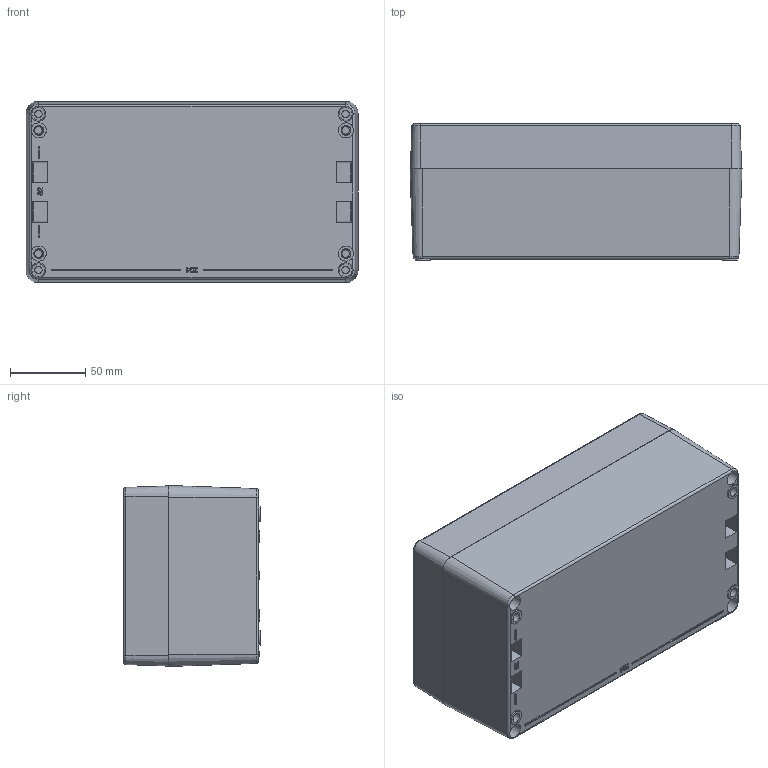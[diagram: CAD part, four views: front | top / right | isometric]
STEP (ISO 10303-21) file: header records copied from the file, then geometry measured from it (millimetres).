
FILE_DESCRIPTION(/* description */ (''),/* implementation_level */ '2;1');
FILE_NAME(/* name */ 'E:\Eng\Customer Service\Drawings\1590Z\STEP\1590Z155\1590Z155.iam.stp',/* time_stamp */ '2015-04-20T08:46:33-04:00',/* author */ ('rboehler'),/* organization */ (''),/* preprocessor_version */ 'ST-DEVELOPER v15.6',/* originating_system */ 'Autodesk Inventor 2015',/* authorisation */ '');
FILE_SCHEMA (('AUTOMOTIVE_DESIGN { 1 0 10303 214 3 1 1 }'));
Length unit declared in the file: millimetre
Products named in the file (6): 1590Z150 BOX; Z155 DEEP LID; 1590Z150 GASKET; 1590Z150PL; SC565 (screw M6-1X 45mm PN); 1590Z155
Assembly tree (8 placements, depth 2):
  1590Z155
    1590Z150 BOX
    Z155 DEEP LID
    1590Z150 GASKET
    1590Z150PL
    SC565 (screw M6-1X 45mm PN)  x4
Bounding box: 221 x 91 x 120.5 mm (x, y, z)
Volume: 582998.7 mm3; surface area: 293761.6 mm2
Topology: 8 solids, 8 shells, 702 faces, 1730 edges, 1110 vertices
Faces by surface type: plane 364, cone 158, cylinder 80, bspline 56, torus 40, sphere 4
Full cylindrical faces by diameter (mm): 4.917 x10, 5 x4, 5.28 x4, 5.6 x4, 5.86 x4, 6.5 x4, 6.528 x6, 7.4 x4
Entity records: 18914 total; most frequent: CARTESIAN_POINT 4512, DIRECTION 2910, ORIENTED_EDGE 2864, EDGE_CURVE 1432, AXIS2_PLACEMENT_3D 1042, VERTEX_POINT 958, LINE 826, VECTOR 826
